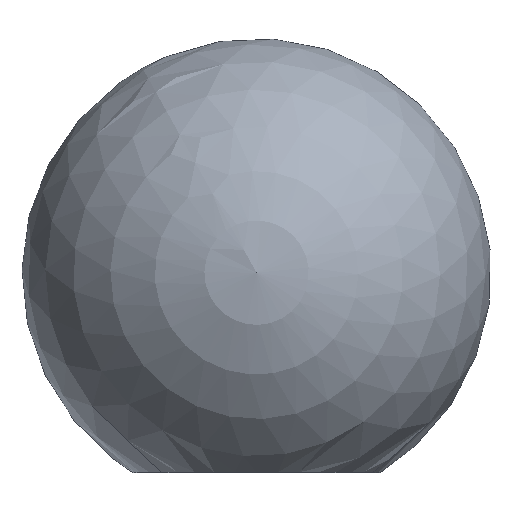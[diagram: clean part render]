
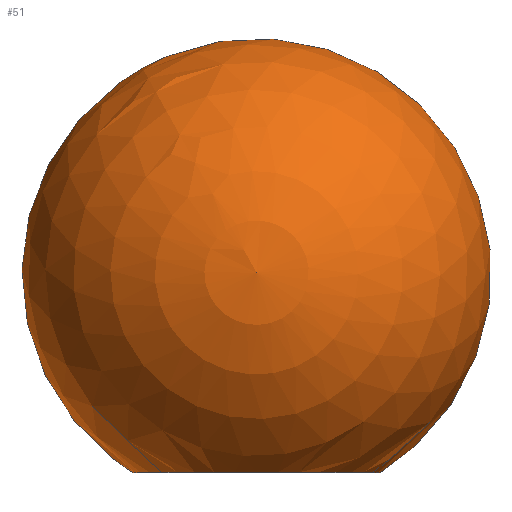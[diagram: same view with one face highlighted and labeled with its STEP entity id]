
A CAD part, top view. The second image highlights one B-rep face of the part: STEP entity #51.
In plain terms, the highlighted spherical face has radius 20 mm.
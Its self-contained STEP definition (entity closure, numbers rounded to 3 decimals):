
#9 = CARTESIAN_POINT ( 'NONE',  ( 0., 0., 0. ) ) ;
#11 = DIRECTION ( 'NONE',  ( 0., -1., 0. ) ) ;
#24 = AXIS2_PLACEMENT_3D ( 'NONE', #109, #79, #61 ) ;
#26 = VERTEX_POINT ( 'NONE', #28 ) ;
#28 = CARTESIAN_POINT ( 'NONE',  ( 0., 0., -10.536 ) ) ;
#45 = FACE_OUTER_BOUND ( 'NONE', #118, .T. ) ;
#50 = CIRCLE ( 'NONE', #158, 10.536 ) ;
#51 = ADVANCED_FACE ( 'NONE', ( #45 ), #123, .T. ) ;
#61 = DIRECTION ( 'NONE',  ( 1., 0., 0. ) ) ;
#79 = DIRECTION ( 'NONE',  ( 0., 0., 1. ) ) ;
#100 = ORIENTED_EDGE ( 'NONE', *, *, #175, .F. ) ;
#102 = DIRECTION ( 'NONE',  ( 0., 0., -1. ) ) ;
#109 = CARTESIAN_POINT ( 'NONE',  ( 0., 17., 0. ) ) ;
#118 = EDGE_LOOP ( 'NONE', ( #100 ) ) ;
#123 = SPHERICAL_SURFACE ( 'NONE', #24, 20. ) ;
#158 = AXIS2_PLACEMENT_3D ( 'NONE', #9, #11, #102 ) ;
#175 = EDGE_CURVE ( 'NONE', #26, #26, #50, .T. ) ;
